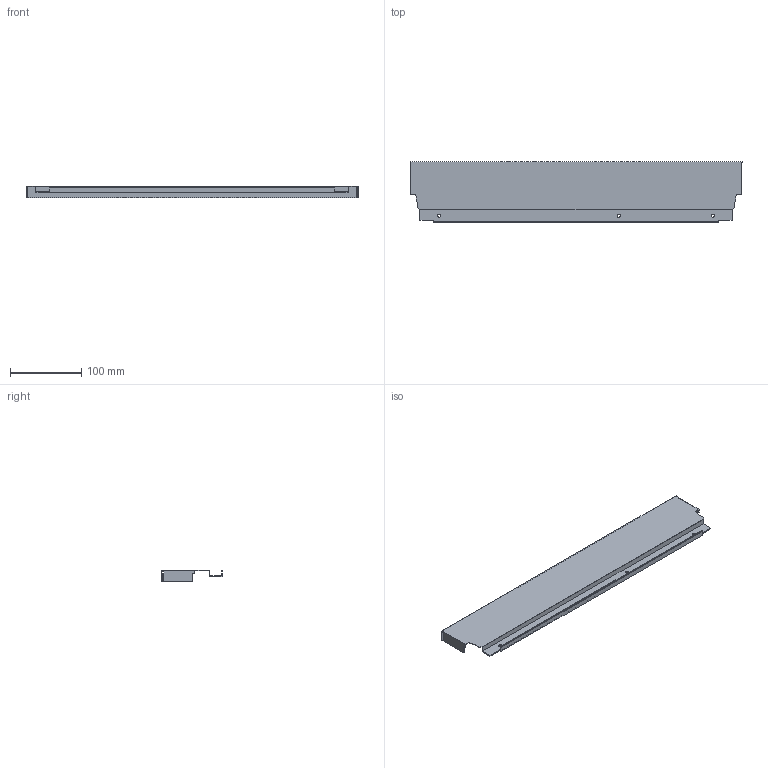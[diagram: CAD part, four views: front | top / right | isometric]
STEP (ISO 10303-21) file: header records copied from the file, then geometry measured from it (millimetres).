
FILE_DESCRIPTION (( 'STEP AP214' ), '1' );
FILE_NAME ('_DWD_XP Stahlrückwand_H86_KAB550_S17.step', '2010-07-08T12:10:08', ( 'grass' ), ( '' ), 'SwSTEP 2.0', 'SolidWorks 2010', '' );
FILE_SCHEMA (( 'AUTOMOTIVE_DESIGN' ));
Length unit declared in the file: millimetre
Products named in the file (1): _DWD_XP Stahlrückwand_H86_KAB550_S17
Bounding box: 467 x 85.79 x 16 mm (x, y, z)
Volume: 49602.9 mm3; surface area: 108287.5 mm2
Topology: 1 solids, 1 shells, 50 faces, 144 edges, 96 vertices
Faces by surface type: plane 44, cylinder 6
Entity records: 1666 total; most frequent: CARTESIAN_POINT 291, ORIENTED_EDGE 288, DIRECTION 258, EDGE_CURVE 144, LINE 132, VECTOR 132, VERTEX_POINT 96, AXIS2_PLACEMENT_3D 63
